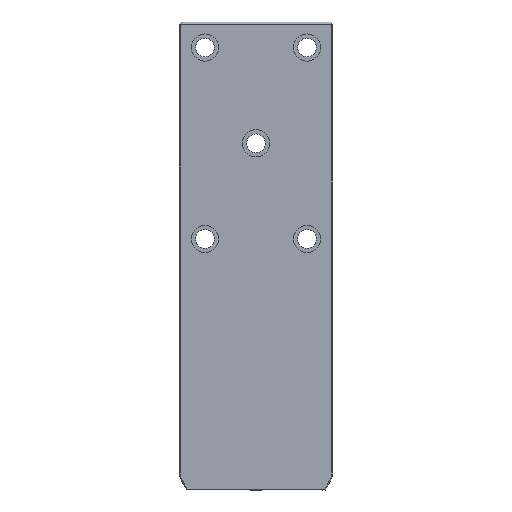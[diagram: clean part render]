
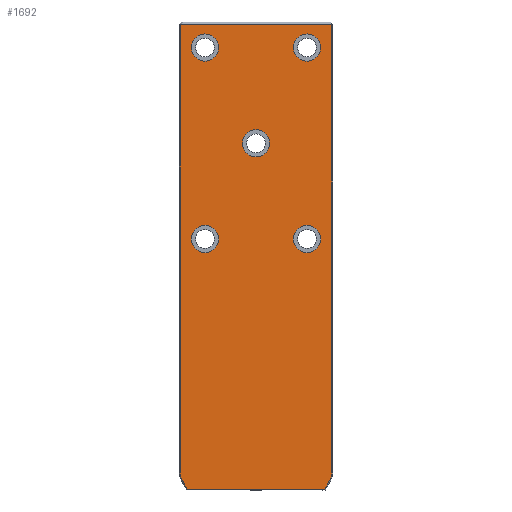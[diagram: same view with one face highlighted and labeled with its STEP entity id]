
A CAD part, front view. The second image highlights one B-rep face of the part: STEP entity #1692.
In plain terms, the highlighted planar face has unit normal (0, -1, 0).
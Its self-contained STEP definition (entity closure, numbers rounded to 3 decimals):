
#109=VERTEX_POINT(' ',#110);
#110=CARTESIAN_POINT('',(60.,-55.,-271.));
#111=VERTEX_POINT(' ',#112);
#112=CARTESIAN_POINT('',(60.,-55.,-239.));
#117=VERTEX_POINT(' ',#118);
#118=CARTESIAN_POINT('',(-60.,-55.,-46.));
#119=VERTEX_POINT(' ',#120);
#120=CARTESIAN_POINT('',(-60.,-55.,-14.));
#137=VERTEX_POINT(' ',#138);
#138=CARTESIAN_POINT('',(-60.,-55.,-271.));
#139=VERTEX_POINT(' ',#140);
#140=CARTESIAN_POINT('',(-60.,-55.,-239.));
#145=VERTEX_POINT(' ',#146);
#146=CARTESIAN_POINT('',(60.,-55.,-46.));
#147=VERTEX_POINT(' ',#148);
#148=CARTESIAN_POINT('',(60.,-55.,-14.));
#161=VERTEX_POINT(' ',#162);
#162=CARTESIAN_POINT('',(0.,-55.,-158.5));
#163=VERTEX_POINT(' ',#164);
#164=CARTESIAN_POINT('',(0.,-55.,-126.5));
#169=VERTEX_POINT(' ',#170);
#170=CARTESIAN_POINT('',(80.762,-55.,-549.));
#175=VERTEX_POINT(' ',#176);
#176=CARTESIAN_POINT('',(86.454,-55.,-539.141));
#179=VERTEX_POINT(' ',#180);
#180=CARTESIAN_POINT('',(89.,-55.,-529.641));
#183=VERTEX_POINT(' ',#184);
#184=CARTESIAN_POINT('',(89.,-55.,-300.));
#187=VERTEX_POINT(' ',#188);
#188=CARTESIAN_POINT('',(89.,-55.,-3.));
#193=VERTEX_POINT(' ',#194);
#194=CARTESIAN_POINT('',(-88.775,-55.,-3.));
#197=VERTEX_POINT(' ',#198);
#198=CARTESIAN_POINT('',(-89.,-55.,-3.112));
#203=VERTEX_POINT(' ',#204);
#204=CARTESIAN_POINT('',(-80.762,-55.,-549.));
#207=VERTEX_POINT(' ',#208);
#208=CARTESIAN_POINT('',(-89.,-55.,-300.));
#209=VERTEX_POINT(' ',#210);
#210=CARTESIAN_POINT('',(-89.,-55.,-529.641));
#211=VERTEX_POINT(' ',#212);
#212=CARTESIAN_POINT('',(-86.454,-55.,-539.141));
#379=CIRCLE('',#380,16.);
#380=AXIS2_PLACEMENT_3D('',#381,#382,#383);
#381=CARTESIAN_POINT('',(60.,-55.,-255.));
#382=DIRECTION('',(0.,1.,0.));
#383=DIRECTION('',(-1.,0.,0.));
#384=EDGE_CURVE(' ',#109,#111,#379,.F.);
#395=CIRCLE('',#396,16.);
#396=AXIS2_PLACEMENT_3D('',#397,#398,#399);
#397=CARTESIAN_POINT('',(60.,-55.,-255.));
#398=DIRECTION('',(0.,1.,0.));
#399=DIRECTION('',(1.,0.,0.));
#400=EDGE_CURVE(' ',#111,#109,#395,.F.);
#413=CIRCLE('',#414,16.);
#414=AXIS2_PLACEMENT_3D('',#415,#416,#417);
#415=CARTESIAN_POINT('',(-60.,-55.,-30.));
#416=DIRECTION('',(0.,1.,0.));
#417=DIRECTION('',(-1.,0.,0.));
#418=EDGE_CURVE(' ',#117,#119,#413,.F.);
#429=CIRCLE('',#430,16.);
#430=AXIS2_PLACEMENT_3D('',#431,#432,#433);
#431=CARTESIAN_POINT('',(-60.,-55.,-30.));
#432=DIRECTION('',(0.,1.,0.));
#433=DIRECTION('',(1.,0.,0.));
#434=EDGE_CURVE(' ',#119,#117,#429,.F.);
#503=CIRCLE('',#504,16.);
#504=AXIS2_PLACEMENT_3D('',#505,#506,#507);
#505=CARTESIAN_POINT('',(-60.,-55.,-255.));
#506=DIRECTION('',(0.,1.,0.));
#507=DIRECTION('',(-1.,0.,0.));
#508=EDGE_CURVE(' ',#137,#139,#503,.F.);
#525=CIRCLE('',#526,16.);
#526=AXIS2_PLACEMENT_3D('',#527,#528,#529);
#527=CARTESIAN_POINT('',(-60.,-55.,-255.));
#528=DIRECTION('',(0.,1.,0.));
#529=DIRECTION('',(1.,0.,0.));
#530=EDGE_CURVE(' ',#139,#137,#525,.F.);
#537=CIRCLE('',#538,16.);
#538=AXIS2_PLACEMENT_3D('',#539,#540,#541);
#539=CARTESIAN_POINT('',(60.,-55.,-30.));
#540=DIRECTION('',(0.,1.,0.));
#541=DIRECTION('',(-1.,0.,0.));
#542=EDGE_CURVE(' ',#145,#147,#537,.F.);
#559=CIRCLE('',#560,16.);
#560=AXIS2_PLACEMENT_3D('',#561,#562,#563);
#561=CARTESIAN_POINT('',(60.,-55.,-30.));
#562=DIRECTION('',(0.,1.,0.));
#563=DIRECTION('',(1.,0.,0.));
#564=EDGE_CURVE(' ',#147,#145,#559,.F.);
#605=CIRCLE('',#606,16.);
#606=AXIS2_PLACEMENT_3D('',#607,#608,#609);
#607=CARTESIAN_POINT('',(0.,-55.,-142.5));
#608=DIRECTION('',(0.,1.,0.));
#609=DIRECTION('',(-1.,0.,0.));
#610=EDGE_CURVE(' ',#161,#163,#605,.F.);
#627=CIRCLE('',#628,16.);
#628=AXIS2_PLACEMENT_3D('',#629,#630,#631);
#629=CARTESIAN_POINT('',(0.,-55.,-142.5));
#630=DIRECTION('',(0.,1.,0.));
#631=DIRECTION('',(1.,0.,0.));
#632=EDGE_CURVE(' ',#163,#161,#627,.F.);
#654=LINE('',#655,#656);
#655=CARTESIAN_POINT('',(86.454,-55.,-539.141));
#656=VECTOR('',#657,1.);
#657=DIRECTION('',(-0.5,0.,-0.866));
#658=EDGE_CURVE(' ',#175,#169,#654,.T.);
#670=CIRCLE('',#671,19.);
#671=AXIS2_PLACEMENT_3D('',#672,#673,#674);
#672=CARTESIAN_POINT('',(70.,-55.,-529.641));
#673=DIRECTION('',(0.,1.,0.));
#674=DIRECTION('',(-0.966,0.,0.259));
#675=EDGE_CURVE(' ',#179,#175,#670,.T.);
#681=LINE('',#682,#683);
#682=CARTESIAN_POINT('',(89.,-55.,-300.));
#683=VECTOR('',#684,1.);
#684=DIRECTION('',(0.,0.,-1.));
#685=EDGE_CURVE(' ',#183,#179,#681,.T.);
#696=LINE('',#697,#698);
#697=CARTESIAN_POINT('',(89.,-55.,2.657));
#698=VECTOR('',#699,1.);
#699=DIRECTION('',(0.,0.,-1.));
#700=EDGE_CURVE(' ',#187,#183,#696,.T.);
#721=LINE('',#722,#723);
#722=CARTESIAN_POINT('',(-106.971,-55.,-3.));
#723=VECTOR('',#724,1.);
#724=DIRECTION('',(1.,0.,0.));
#725=EDGE_CURVE(' ',#193,#187,#721,.T.);
#736=LINE('',#737,#738);
#737=CARTESIAN_POINT('',(-16.555,-55.,33.11));
#738=VECTOR('',#739,1.);
#739=DIRECTION('',(-0.894,0.,-0.447));
#740=EDGE_CURVE(' ',#197,#193,#736,.F.);
#766=LINE('',#767,#768);
#767=CARTESIAN_POINT('',(-90.12,-55.,-549.));
#768=VECTOR('',#769,1.);
#769=DIRECTION('',(1.,0.,0.));
#770=EDGE_CURVE(' ',#203,#169,#766,.T.);
#771=LINE('',#772,#773);
#772=CARTESIAN_POINT('',(-89.,-55.,-300.));
#773=VECTOR('',#774,1.);
#774=DIRECTION('',(0.,0.,1.));
#775=EDGE_CURVE(' ',#207,#197,#771,.T.);
#776=LINE('',#777,#778);
#777=CARTESIAN_POINT('',(-89.,-55.,-529.641));
#778=VECTOR('',#779,1.);
#779=DIRECTION('',(0.,0.,1.));
#780=EDGE_CURVE(' ',#209,#207,#776,.T.);
#781=CIRCLE('',#782,19.);
#782=AXIS2_PLACEMENT_3D('',#783,#784,#785);
#783=CARTESIAN_POINT('',(-70.,-55.,-529.641));
#784=DIRECTION('',(0.,1.,0.));
#785=DIRECTION('',(0.966,0.,0.259));
#786=EDGE_CURVE(' ',#211,#209,#781,.T.);
#787=LINE('',#788,#789);
#788=CARTESIAN_POINT('',(-77.934,-55.,-553.899));
#789=VECTOR('',#790,1.);
#790=DIRECTION('',(-0.5,0.,0.866));
#791=EDGE_CURVE(' ',#203,#211,#787,.T.);
#1654=ORIENTED_EDGE('',*,*,#775,.F.);
#1655=ORIENTED_EDGE('',*,*,#780,.F.);
#1656=ORIENTED_EDGE('',*,*,#786,.F.);
#1657=ORIENTED_EDGE('',*,*,#791,.F.);
#1658=ORIENTED_EDGE('',*,*,#770,.T.);
#1659=ORIENTED_EDGE('',*,*,#658,.F.);
#1660=ORIENTED_EDGE('',*,*,#675,.F.);
#1661=ORIENTED_EDGE('',*,*,#685,.F.);
#1662=ORIENTED_EDGE('',*,*,#700,.F.);
#1663=ORIENTED_EDGE('',*,*,#725,.F.);
#1664=ORIENTED_EDGE('',*,*,#740,.F.);
#1665=EDGE_LOOP('',(#1654,#1655,#1656,#1657,#1658,#1659,#1660,#1661,#1662,#1663,#1664));
#1666=FACE_OUTER_BOUND('',#1665,.T.);
#1667=ORIENTED_EDGE('',*,*,#632,.F.);
#1668=ORIENTED_EDGE('',*,*,#610,.F.);
#1669=EDGE_LOOP('',(#1667,#1668));
#1670=FACE_BOUND('',#1669,.T.);
#1671=ORIENTED_EDGE('',*,*,#564,.F.);
#1672=ORIENTED_EDGE('',*,*,#542,.F.);
#1673=EDGE_LOOP('',(#1671,#1672));
#1674=FACE_BOUND('',#1673,.T.);
#1675=ORIENTED_EDGE('',*,*,#530,.F.);
#1676=ORIENTED_EDGE('',*,*,#508,.F.);
#1677=EDGE_LOOP('',(#1675,#1676));
#1678=FACE_BOUND('',#1677,.T.);
#1679=ORIENTED_EDGE('',*,*,#434,.F.);
#1680=ORIENTED_EDGE('',*,*,#418,.F.);
#1681=EDGE_LOOP('',(#1679,#1680));
#1682=FACE_BOUND('',#1681,.T.);
#1683=ORIENTED_EDGE('',*,*,#400,.F.);
#1684=ORIENTED_EDGE('',*,*,#384,.F.);
#1685=EDGE_LOOP('',(#1683,#1684));
#1686=FACE_BOUND('',#1685,.T.);
#1687=PLANE('',#1688);
#1688=AXIS2_PLACEMENT_3D('',#1689,#1690,#1691);
#1689=CARTESIAN_POINT('',(0.,-55.,0.));
#1690=DIRECTION('',(0.,-1.,0.));
#1691=DIRECTION('',(0.,0.,-1.));
#1692=ADVANCED_FACE('',(#1666,#1670,#1674,#1678,#1682,#1686),#1687,.T.);
